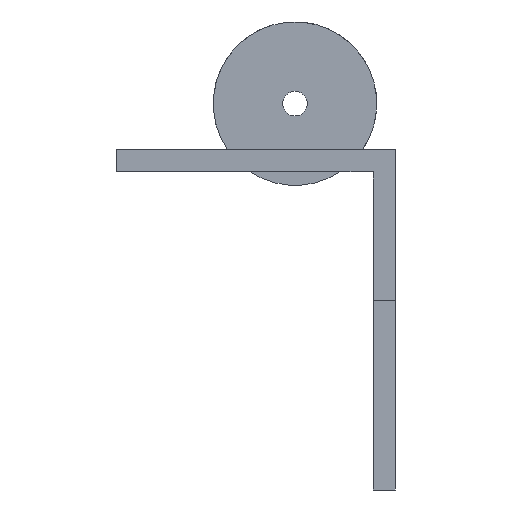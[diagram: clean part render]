
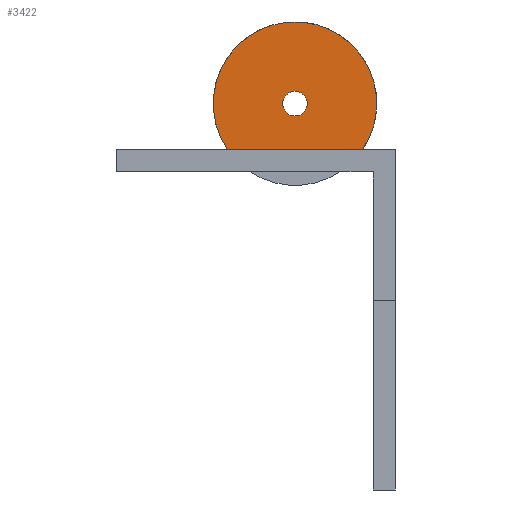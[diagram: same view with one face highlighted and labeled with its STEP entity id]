
A CAD part, front view. The second image highlights one B-rep face of the part: STEP entity #3422.
In plain terms, the highlighted planar face has unit normal (0, -1, 0).
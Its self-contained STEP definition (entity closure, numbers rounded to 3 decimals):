
#967 = PLANE('',#968);
#968 = AXIS2_PLACEMENT_3D('',#969,#970,#971);
#969 = CARTESIAN_POINT('',(80.,22.2,-219.4));
#970 = DIRECTION('',(0.,0.,-1.));
#971 = DIRECTION('',(0.,-1.,0.));
#2077 = CYLINDRICAL_SURFACE('',#2078,22.);
#2078 = AXIS2_PLACEMENT_3D('',#2079,#2080,#2081);
#2079 = CARTESIAN_POINT('',(59.,12.2,-207.));
#2080 = DIRECTION('',(0.,-1.,-0.));
#2081 = DIRECTION('',(1.,0.,0.));
#2556 = VERTEX_POINT('',#2557);
#2557 = CARTESIAN_POINT('',(40.827,12.2,-219.4));
#2577 = EDGE_CURVE('',#2578,#2556,#2580,.T.);
#2578 = VERTEX_POINT('',#2579);
#2579 = CARTESIAN_POINT('',(77.173,12.2,-219.4));
#2580 = SURFACE_CURVE('',#2581,(#2585,#2592),.PCURVE_S1.);
#2581 = LINE('',#2582,#2583);
#2582 = CARTESIAN_POINT('',(77.173,12.2,-219.4));
#2583 = VECTOR('',#2584,1.);
#2584 = DIRECTION('',(-1.,0.,0.));
#2585 = PCURVE('',#967,#2586);
#2586 = DEFINITIONAL_REPRESENTATION('',(#2587),#2591);
#2587 = LINE('',#2588,#2589);
#2588 = CARTESIAN_POINT('',(10.,2.827));
#2589 = VECTOR('',#2590,1.);
#2590 = DIRECTION('',(0.,1.));
#2591 = ( GEOMETRIC_REPRESENTATION_CONTEXT(2) 
PARAMETRIC_REPRESENTATION_CONTEXT() REPRESENTATION_CONTEXT('2D SPACE',''
  ) );
#2592 = PCURVE('',#2593,#2598);
#2593 = PLANE('',#2594);
#2594 = AXIS2_PLACEMENT_3D('',#2595,#2596,#2597);
#2595 = CARTESIAN_POINT('',(59.,12.2,-207.));
#2596 = DIRECTION('',(0.,1.,0.));
#2597 = DIRECTION('',(0.,-0.,1.));
#2598 = DEFINITIONAL_REPRESENTATION('',(#2599),#2603);
#2599 = LINE('',#2600,#2601);
#2600 = CARTESIAN_POINT('',(-12.4,18.173));
#2601 = VECTOR('',#2602,1.);
#2602 = DIRECTION('',(0.,-1.));
#2603 = ( GEOMETRIC_REPRESENTATION_CONTEXT(2) 
PARAMETRIC_REPRESENTATION_CONTEXT() REPRESENTATION_CONTEXT('2D SPACE',''
  ) );
#3125 = CYLINDRICAL_SURFACE('',#3126,3.3);
#3126 = AXIS2_PLACEMENT_3D('',#3127,#3128,#3129);
#3127 = CARTESIAN_POINT('',(59.,4.2,-207.));
#3128 = DIRECTION('',(0.,-1.,-0.));
#3129 = DIRECTION('',(1.,0.,0.));
#3393 = EDGE_CURVE('',#2556,#2578,#3394,.T.);
#3394 = SURFACE_CURVE('',#3395,(#3400,#3407),.PCURVE_S1.);
#3395 = CIRCLE('',#3396,22.);
#3396 = AXIS2_PLACEMENT_3D('',#3397,#3398,#3399);
#3397 = CARTESIAN_POINT('',(59.,12.2,-207.));
#3398 = DIRECTION('',(0.,1.,0.));
#3399 = DIRECTION('',(-0.826,0.,-0.564));
#3400 = PCURVE('',#2077,#3401);
#3401 = DEFINITIONAL_REPRESENTATION('',(#3402),#3406);
#3402 = LINE('',#3403,#3404);
#3403 = CARTESIAN_POINT('',(-2.543,0.));
#3404 = VECTOR('',#3405,1.);
#3405 = DIRECTION('',(-1.,0.));
#3406 = ( GEOMETRIC_REPRESENTATION_CONTEXT(2) 
PARAMETRIC_REPRESENTATION_CONTEXT() REPRESENTATION_CONTEXT('2D SPACE',''
  ) );
#3407 = PCURVE('',#2593,#3408);
#3408 = DEFINITIONAL_REPRESENTATION('',(#3409),#3413);
#3409 = CIRCLE('',#3410,22.);
#3410 = AXIS2_PLACEMENT_2D('',#3411,#3412);
#3411 = CARTESIAN_POINT('',(0.,0.));
#3412 = DIRECTION('',(-0.564,-0.826));
#3413 = ( GEOMETRIC_REPRESENTATION_CONTEXT(2) 
PARAMETRIC_REPRESENTATION_CONTEXT() REPRESENTATION_CONTEXT('2D SPACE',''
  ) );
#3422 = ADVANCED_FACE('',(#3423,#3427),#2593,.F.);
#3423 = FACE_BOUND('',#3424,.F.);
#3424 = EDGE_LOOP('',(#3425,#3426));
#3425 = ORIENTED_EDGE('',*,*,#3393,.T.);
#3426 = ORIENTED_EDGE('',*,*,#2577,.T.);
#3427 = FACE_BOUND('',#3428,.F.);
#3428 = EDGE_LOOP('',(#3429));
#3429 = ORIENTED_EDGE('',*,*,#3430,.T.);
#3430 = EDGE_CURVE('',#3431,#3431,#3433,.T.);
#3431 = VERTEX_POINT('',#3432);
#3432 = CARTESIAN_POINT('',(62.3,12.2,-207.));
#3433 = SURFACE_CURVE('',#3434,(#3439,#3450),.PCURVE_S1.);
#3434 = CIRCLE('',#3435,3.3);
#3435 = AXIS2_PLACEMENT_3D('',#3436,#3437,#3438);
#3436 = CARTESIAN_POINT('',(59.,12.2,-207.));
#3437 = DIRECTION('',(0.,-1.,-0.));
#3438 = DIRECTION('',(1.,0.,0.));
#3439 = PCURVE('',#2593,#3440);
#3440 = DEFINITIONAL_REPRESENTATION('',(#3441),#3449);
#3441 = ( BOUNDED_CURVE() B_SPLINE_CURVE(2,(#3442,#3443,#3444,#3445,
#3446,#3447,#3448),.UNSPECIFIED.,.T.,.F.) B_SPLINE_CURVE_WITH_KNOTS((1,2
    ,2,2,2,1),(-2.094,0.,2.094,4.189,
6.283,8.378),.UNSPECIFIED.) CURVE() 
GEOMETRIC_REPRESENTATION_ITEM() RATIONAL_B_SPLINE_CURVE((1.,0.5,1.,0.5,
1.,0.5,1.)) REPRESENTATION_ITEM('') );
#3442 = CARTESIAN_POINT('',(0.,3.3));
#3443 = CARTESIAN_POINT('',(5.716,3.3));
#3444 = CARTESIAN_POINT('',(2.858,-1.65));
#3445 = CARTESIAN_POINT('',(0.,-6.6));
#3446 = CARTESIAN_POINT('',(-2.858,-1.65));
#3447 = CARTESIAN_POINT('',(-5.716,3.3));
#3448 = CARTESIAN_POINT('',(0.,3.3));
#3449 = ( GEOMETRIC_REPRESENTATION_CONTEXT(2) 
PARAMETRIC_REPRESENTATION_CONTEXT() REPRESENTATION_CONTEXT('2D SPACE',''
  ) );
#3450 = PCURVE('',#3125,#3451);
#3451 = DEFINITIONAL_REPRESENTATION('',(#3452),#3456);
#3452 = LINE('',#3453,#3454);
#3453 = CARTESIAN_POINT('',(-6.283,-8.));
#3454 = VECTOR('',#3455,1.);
#3455 = DIRECTION('',(1.,-0.));
#3456 = ( GEOMETRIC_REPRESENTATION_CONTEXT(2) 
PARAMETRIC_REPRESENTATION_CONTEXT() REPRESENTATION_CONTEXT('2D SPACE',''
  ) );
